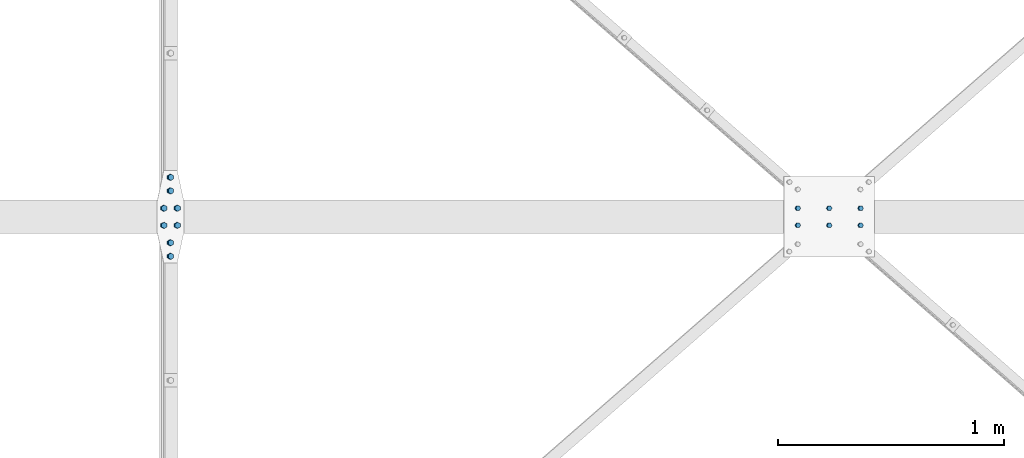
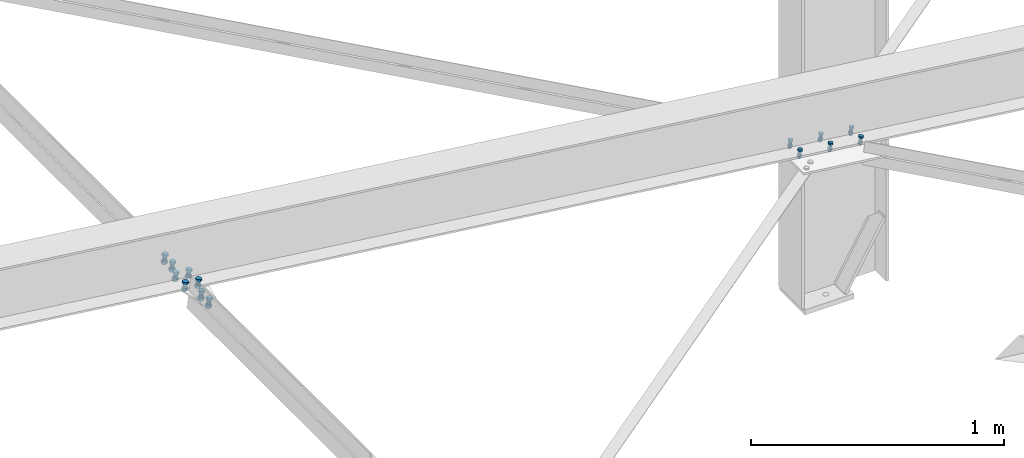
# One storey, part 301 of 3134: 4 mechanical fasteners, 4 elements without a shape of their own.
"""IFC2X3 building model written with IfcOpenShell, lengths in millimetres."""

from ifc_helpers import new_model, si_unit, frame, origin_with_axes, place, context, subcontext, project, spatial, faceted_brep, source, transform, mapped, material, type_object, element, aggregate, save


model = new_model("IFC2X3")

# Units and contexts
model_context = context("Model", 3, precision=1e-05, world=origin_with_axes())
body_context = subcontext(model_context, "Body", "Model", "MODEL_VIEW")
ifc_project = project(units=[si_unit("LENGTHUNIT", "METRE", prefix="MILLI"), si_unit("AREAUNIT", "SQUARE_METRE"), si_unit("VOLUMEUNIT", "CUBIC_METRE"), si_unit("MASSUNIT", "GRAM", prefix="KILO"), si_unit("TIMEUNIT", "SECOND"), si_unit("PLANEANGLEUNIT", "RADIAN"), si_unit("SOLIDANGLEUNIT", "STERADIAN"), si_unit("THERMODYNAMICTEMPERATUREUNIT", "DEGREE_CELSIUS"), si_unit("LUMINOUSINTENSITYUNIT", "LUMEN")], contexts=[model_context])

# Site, building, storey
site_placement = place(None, origin_with_axes())
site = spatial("IfcSite", under=ifc_project, at=site_placement, CompositionType="ELEMENT")
building_placement = place(site_placement, origin_with_axes())
building = spatial("IfcBuilding", under=site, at=building_placement, Name="Undefined", CompositionType="ELEMENT")
storey_placement = place(building_placement, origin_with_axes())
storey = spatial("IfcBuildingStorey", under=building, at=storey_placement, Name="Undefined", CompositionType="ELEMENT", Elevation=0.0)

# Assembly, mechanical fastener
assembly_1_placement = place(storey_placement, origin_with_axes())
assembly_1 = element("IfcElementAssembly", 1, at=assembly_1_placement, inside=storey, AssemblyPlace="NOTDEFINED", PredefinedType="RIGID_FRAME")
ifc_material = material(Name="8.8")
mechanical_fastener_type = type_object("IfcMechanicalFastenerType", Name="Bolt assembly")
shared_shape_1 = source(origin_with_axes(), body_context, "Body", "Brep", [
    faceted_brep([(13.856406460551, -16.9990000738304, 0.0), (6.92820323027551, -16.9990000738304, 12.0), (-6.92820323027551, -16.9990000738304, 12.0), (-13.856406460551, -16.9990000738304, 1.69692038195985e-15), (-6.92820323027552, -16.9990000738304, -12.0), (6.9282032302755, -16.9990000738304, -12.0), (6.9282032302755, -6.99900007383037, -12.0), (-6.92820323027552, -6.99900007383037, -12.0), (-13.856406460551, -6.99900007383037, 1.69692038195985e-15), (-6.92820323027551, -6.99900007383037, 12.0), (6.92820323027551, -6.99900007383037, 12.0), (13.856406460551, -6.99900007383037, 0.0), (8.0, -6.99900007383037, 0.0), (6.92820323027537, -6.99900007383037, 4.00000000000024), (3.99999999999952, -6.99900007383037, 6.92820323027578), (-8.29068785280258e-13, -6.99900007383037, 8.0), (-4.00000000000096, -6.99900007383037, 6.92820323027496), (-6.9282032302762, -6.99900007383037, 3.99999999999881), (-8.0, -6.99900007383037, -1.65813757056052e-12), (-6.92820323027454, -6.99900007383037, -4.00000000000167), (-3.99999999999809, -6.99900007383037, -6.92820323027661), (2.47832457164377e-12, -6.99900007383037, -8.0), (4.00000000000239, -6.99900007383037, -6.92820323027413), (6.92820323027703, -6.99900007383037, -3.99999999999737), (6.92820323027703, 33.0009999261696, -3.99999999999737), (4.00000000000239, 33.0009999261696, -6.92820323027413), (2.47832457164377e-12, 33.0009999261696, -8.0), (-3.99999999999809, 33.0009999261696, -6.92820323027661), (-6.92820323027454, 33.0009999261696, -4.00000000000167), (-8.0, 33.0009999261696, -1.65813757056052e-12), (-6.9282032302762, 33.0009999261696, 3.99999999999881), (-4.00000000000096, 33.0009999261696, 6.92820323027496), (-8.29068785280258e-13, 33.0009999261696, 8.0), (3.99999999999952, 33.0009999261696, 6.92820323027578), (6.92820323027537, 33.0009999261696, 4.00000000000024), (8.0, 33.0009999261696, 0.0), (13.856406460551, 14.9990000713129, 0.0), (6.92820323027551, 14.9990000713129, 12.0), (-6.92820323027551, 14.9990000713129, 12.0), (-13.856406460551, 14.9990000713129, 1.69692038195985e-15), (-6.92820323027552, 14.9990000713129, -12.0), (6.9282032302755, 14.9990000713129, -12.0), (6.9282032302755, 27.9990000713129, -12.0), (-6.92820323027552, 27.9990000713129, -12.0), (-13.856406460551, 27.9990000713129, 1.69692038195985e-15), (-6.92820323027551, 27.9990000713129, 12.0), (6.92820323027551, 27.9990000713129, 12.0), (13.856406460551, 27.9990000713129, 0.0)], [[[0, 1, 2, 3, 4, 5]], [[6, 7, 8, 9, 10, 11]], [[0, 11, 10, 1]], [[1, 10, 9, 2]], [[2, 9, 8, 3]], [[3, 8, 7, 4]], [[4, 7, 6, 5]], [[5, 6, 11, 0]], [[12, 13, 14, 15, 16, 17, 18, 19, 20, 21, 22, 23]], [[24, 25, 26, 27, 28, 29, 30, 31, 32, 33, 34, 35]], [[12, 35, 34, 13]], [[13, 34, 33, 14]], [[14, 33, 32, 15]], [[15, 32, 31, 16]], [[16, 31, 30, 17]], [[17, 30, 29, 18]], [[18, 29, 28, 19]], [[19, 28, 27, 20]], [[20, 27, 26, 21]], [[21, 26, 25, 22]], [[22, 25, 24, 23]], [[23, 24, 35, 12]], [[36, 37, 38, 39, 40, 41]], [[42, 43, 44, 45, 46, 47]], [[36, 47, 46, 37]], [[37, 46, 45, 38]], [[38, 45, 44, 39]], [[39, 44, 43, 40]], [[40, 43, 42, 41]], [[41, 42, 47, 36]]]),
    faceted_brep([(9.0, -3.46568413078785e-07, 0.0), (7.79422863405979, -3.46568413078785e-07, 4.50000000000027), (4.49999999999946, -3.46568413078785e-07, 7.79422863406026), (-9.3270238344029e-13, -3.46568413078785e-07, 9.0), (-4.50000000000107, -3.46568413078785e-07, 7.79422863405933), (-7.79422863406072, -3.46568413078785e-07, 4.49999999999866), (-9.0, -3.46568413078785e-07, -1.86540476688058e-12), (-7.79422863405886, -3.46568413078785e-07, -4.50000000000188), (-4.49999999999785, -3.46568413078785e-07, -7.79422863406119), (2.78811514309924e-12, -3.46568413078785e-07, -9.0), (4.50000000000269, -3.46568413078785e-07, -7.7942286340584), (7.79422863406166, -3.46568413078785e-07, -4.49999999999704), (7.79422863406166, 8.00000000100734, -4.49999999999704), (4.50000000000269, 8.00000000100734, -7.7942286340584), (2.78811514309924e-12, 8.00000000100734, -9.0), (-4.49999999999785, 8.00000000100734, -7.79422863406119), (-7.79422863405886, 8.00000000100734, -4.50000000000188), (-9.0, 8.00000000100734, -1.86540476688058e-12), (-7.79422863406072, 8.00000000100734, 4.49999999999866), (-4.50000000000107, 8.00000000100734, 7.79422863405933), (-9.3270238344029e-13, 8.00000000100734, 9.0), (4.49999999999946, 8.00000000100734, 7.79422863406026), (7.79422863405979, 8.00000000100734, 4.50000000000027), (9.0, 8.00000000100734, 0.0), (9.0, -6.89900007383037, 0.0), (7.79422863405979, -6.89900007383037, 4.50000000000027), (4.49999999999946, -6.89900007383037, 7.79422863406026), (-9.3270238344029e-13, -6.89900007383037, 9.0), (-4.50000000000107, -6.89900007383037, 7.79422863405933), (-7.79422863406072, -6.89900007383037, 4.49999999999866), (-9.0, -6.89900007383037, -1.86540476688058e-12), (-7.79422863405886, -6.89900007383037, -4.50000000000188), (-4.49999999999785, -6.89900007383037, -7.79422863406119), (2.78811514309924e-12, -6.89900007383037, -9.0), (4.50000000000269, -6.89900007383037, -7.7942286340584), (7.79422863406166, -6.89900007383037, -4.49999999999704), (7.79422863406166, 0.100999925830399, -4.49999999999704), (4.50000000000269, 0.100999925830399, -7.7942286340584), (2.78811514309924e-12, 0.100999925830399, -9.0), (-4.49999999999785, 0.100999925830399, -7.79422863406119), (-7.79422863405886, 0.100999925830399, -4.50000000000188), (-9.0, 0.100999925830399, -1.86540476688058e-12), (-7.79422863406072, 0.100999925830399, 4.49999999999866), (-4.50000000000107, 0.100999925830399, 7.79422863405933), (-9.3270238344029e-13, 0.100999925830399, 9.0), (4.49999999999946, 0.100999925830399, 7.79422863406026), (7.79422863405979, 0.100999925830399, 4.50000000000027), (9.0, 0.100999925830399, 0.0), (9.0, 7.89900007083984, 0.0), (7.79422863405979, 7.89900007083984, 4.50000000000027), (4.49999999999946, 7.89900007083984, 7.79422863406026), (-9.3270238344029e-13, 7.89900007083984, 9.0), (-4.50000000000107, 7.89900007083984, 7.79422863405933), (-7.79422863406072, 7.89900007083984, 4.49999999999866), (-9.0, 7.89900007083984, -1.86540476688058e-12), (-7.79422863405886, 7.89900007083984, -4.50000000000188), (-4.49999999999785, 7.89900007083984, -7.79422863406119), (2.78811514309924e-12, 7.89900007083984, -9.0), (4.50000000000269, 7.89900007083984, -7.7942286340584), (7.79422863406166, 7.89900007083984, -4.49999999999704), (7.79422863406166, 14.9990000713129, -4.49999999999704), (4.50000000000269, 14.9990000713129, -7.7942286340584), (2.78811514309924e-12, 14.9990000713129, -9.0), (-4.49999999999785, 14.9990000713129, -7.79422863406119), (-7.79422863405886, 14.9990000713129, -4.50000000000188), (-9.0, 14.9990000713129, -1.86540476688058e-12), (-7.79422863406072, 14.9990000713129, 4.49999999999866), (-4.50000000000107, 14.9990000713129, 7.79422863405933), (-9.3270238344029e-13, 14.9990000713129, 9.0), (4.49999999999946, 14.9990000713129, 7.79422863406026), (7.79422863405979, 14.9990000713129, 4.50000000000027), (9.0, 14.9990000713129, 0.0)], [[[0, 1, 2, 3, 4, 5, 6, 7, 8, 9, 10, 11]], [[12, 13, 14, 15, 16, 17, 18, 19, 20, 21, 22, 23]], [[0, 23, 22, 1]], [[1, 22, 21, 2]], [[2, 21, 20, 3]], [[3, 20, 19, 4]], [[4, 19, 18, 5]], [[5, 18, 17, 6]], [[6, 17, 16, 7]], [[7, 16, 15, 8]], [[8, 15, 14, 9]], [[9, 14, 13, 10]], [[10, 13, 12, 11]], [[11, 12, 23, 0]], [[24, 25, 26, 27, 28, 29, 30, 31, 32, 33, 34, 35]], [[36, 37, 38, 39, 40, 41, 42, 43, 44, 45, 46, 47]], [[24, 47, 46, 25]], [[25, 46, 45, 26]], [[26, 45, 44, 27]], [[27, 44, 43, 28]], [[28, 43, 42, 29]], [[29, 42, 41, 30]], [[30, 41, 40, 31]], [[31, 40, 39, 32]], [[32, 39, 38, 33]], [[33, 38, 37, 34]], [[34, 37, 36, 35]], [[35, 36, 47, 24]], [[48, 49, 50, 51, 52, 53, 54, 55, 56, 57, 58, 59]], [[60, 61, 62, 63, 64, 65, 66, 67, 68, 69, 70, 71]], [[48, 71, 70, 49]], [[49, 70, 69, 50]], [[50, 69, 68, 51]], [[51, 68, 67, 52]], [[52, 67, 66, 53]], [[53, 66, 65, 54]], [[54, 65, 64, 55]], [[55, 64, 63, 56]], [[56, 63, 62, 57]], [[57, 62, 61, 58]], [[58, 61, 60, 59]], [[59, 60, 71, 48]]]),
])
mechanical_fastener_1_placement = place(assembly_1_placement, frame((61712.9849612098, 2665.0, 4806.73358921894), z_axis=(-0.992623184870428, 0.0, 0.121240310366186), x_axis=(0.0, 1.0, 0.0)))
mechanical_fastener_1 = element("IfcMechanicalFastener", 2, at=mechanical_fastener_1_placement, type_object=mechanical_fastener_type, material=ifc_material, Name="Bolt assembly", NominalDiameter=16.0, NominalLength=40.0, context=body_context, shape_type="MappedRepresentation", body=[
    mapped(shared_shape_1, transform((0.0, 0.0, 0.0))),
    mapped(shared_shape_1, transform((59.9999999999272, 0.0, 5.40239852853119e-10))),
])
aggregate(assembly_1, [mechanical_fastener_1])

assembly_2_placement = place(storey_placement, origin_with_axes())
assembly_2 = element("IfcElementAssembly", 3, at=assembly_2_placement, inside=storey, AssemblyPlace="NOTDEFINED", PredefinedType="RIGID_FRAME")
mechanical_fastener_2_placement = place(assembly_2_placement, frame((61712.9849612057, 2435.00000000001, 4806.73358921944), z_axis=(0.992623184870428, 0.0, -0.121240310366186), x_axis=(0.0, -1.0, 0.0)))
mechanical_fastener_2 = element("IfcMechanicalFastener", 4, at=mechanical_fastener_2_placement, type_object=mechanical_fastener_type, material=ifc_material, Name="Bolt assembly", NominalDiameter=16.0, NominalLength=40.0, context=body_context, shape_type="MappedRepresentation", body=[
    mapped(shared_shape_1, transform((0.0, 0.0, 0.0))),
    mapped(shared_shape_1, transform((59.9999999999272, 0.0, 5.40239852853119e-10))),
])
aggregate(assembly_2, [mechanical_fastener_2])

assembly_3_placement = place(storey_placement, origin_with_axes())
assembly_3 = element("IfcElementAssembly", 5, at=assembly_3_placement, inside=storey, Name="PL8", AssemblyPlace="NOTDEFINED", PredefinedType="RIGID_FRAME")
shared_shape_2 = source(origin_with_axes(), body_context, "Body", "Brep", [
    faceted_brep([(13.856406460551, -19.2001597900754, 0.0), (6.92820323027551, -19.2001597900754, 12.0), (-6.92820323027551, -19.2001597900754, 12.0), (-13.856406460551, -19.2001597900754, 1.69692038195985e-15), (-6.92820323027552, -19.2001597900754, -12.0), (6.9282032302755, -19.2001597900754, -12.0), (6.9282032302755, -9.20015979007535, -12.0), (-6.92820323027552, -9.20015979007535, -12.0), (-13.856406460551, -9.20015979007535, 1.69692038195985e-15), (-6.92820323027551, -9.20015979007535, 12.0), (6.92820323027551, -9.20015979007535, 12.0), (13.856406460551, -9.20015979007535, 0.0), (8.0, -9.20015979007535, 0.0), (6.92820323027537, -9.20015979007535, 4.00000000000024), (3.99999999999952, -9.20015979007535, 6.92820323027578), (-8.29068785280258e-13, -9.20015979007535, 8.0), (-4.00000000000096, -9.20015979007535, 6.92820323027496), (-6.9282032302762, -9.20015979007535, 3.99999999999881), (-8.0, -9.20015979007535, -1.65813757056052e-12), (-6.92820323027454, -9.20015979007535, -4.00000000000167), (-3.99999999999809, -9.20015979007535, -6.92820323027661), (2.47832457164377e-12, -9.20015979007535, -8.0), (4.00000000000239, -9.20015979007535, -6.92820323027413), (6.92820323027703, -9.20015979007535, -3.99999999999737), (6.92820323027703, 25.7998402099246, -3.99999999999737), (4.00000000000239, 25.7998402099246, -6.92820323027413), (2.47832457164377e-12, 25.7998402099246, -8.0), (-3.99999999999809, 25.7998402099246, -6.92820323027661), (-6.92820323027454, 25.7998402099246, -4.00000000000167), (-8.0, 25.7998402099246, -1.65813757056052e-12), (-6.9282032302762, 25.7998402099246, 3.99999999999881), (-4.00000000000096, 25.7998402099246, 6.92820323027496), (-8.29068785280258e-13, 25.7998402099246, 8.0), (3.99999999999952, 25.7998402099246, 6.92820323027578), (6.92820323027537, 25.7998402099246, 4.00000000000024), (8.0, 25.7998402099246, 0.0), (13.856406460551, 7.9998399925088, 0.0), (6.92820323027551, 7.9998399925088, 12.0), (-6.92820323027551, 7.9998399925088, 12.0), (-13.856406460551, 7.9998399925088, 1.69692038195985e-15), (-6.92820323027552, 7.9998399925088, -12.0), (6.9282032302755, 7.9998399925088, -12.0), (6.9282032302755, 20.9998399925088, -12.0), (-6.92820323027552, 20.9998399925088, -12.0), (-13.856406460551, 20.9998399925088, 1.69692038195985e-15), (-6.92820323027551, 20.9998399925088, 12.0), (6.92820323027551, 20.9998399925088, 12.0), (13.856406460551, 20.9998399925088, 0.0)], [[[0, 1, 2, 3, 4, 5]], [[6, 7, 8, 9, 10, 11]], [[0, 11, 10, 1]], [[1, 10, 9, 2]], [[2, 9, 8, 3]], [[3, 8, 7, 4]], [[4, 7, 6, 5]], [[5, 6, 11, 0]], [[12, 13, 14, 15, 16, 17, 18, 19, 20, 21, 22, 23]], [[24, 25, 26, 27, 28, 29, 30, 31, 32, 33, 34, 35]], [[12, 35, 34, 13]], [[13, 34, 33, 14]], [[14, 33, 32, 15]], [[15, 32, 31, 16]], [[16, 31, 30, 17]], [[17, 30, 29, 18]], [[18, 29, 28, 19]], [[19, 28, 27, 20]], [[20, 27, 26, 21]], [[21, 26, 25, 22]], [[22, 25, 24, 23]], [[23, 24, 35, 12]], [[36, 37, 38, 39, 40, 41]], [[42, 43, 44, 45, 46, 47]], [[36, 47, 46, 37]], [[37, 46, 45, 38]], [[38, 45, 44, 39]], [[39, 44, 43, 40]], [[40, 43, 42, 41]], [[41, 42, 47, 36]]]),
    faceted_brep([(9.0, -9.10015979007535, 0.0), (7.79422863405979, -9.10015979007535, 4.50000000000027), (4.49999999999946, -9.10015979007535, 7.79422863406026), (-9.3270238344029e-13, -9.10015979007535, 9.0), (-4.50000000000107, -9.10015979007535, 7.79422863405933), (-7.79422863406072, -9.10015979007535, 4.49999999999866), (-9.0, -9.10015979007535, -1.86540476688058e-12), (-7.79422863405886, -9.10015979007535, -4.50000000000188), (-4.49999999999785, -9.10015979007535, -7.79422863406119), (2.78811514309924e-12, -9.10015979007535, -9.0), (4.50000000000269, -9.10015979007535, -7.7942286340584), (7.79422863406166, -9.10015979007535, -4.49999999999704), (7.79422863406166, 0.0998400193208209, -4.49999999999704), (4.50000000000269, 0.0998400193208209, -7.7942286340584), (2.78811514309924e-12, 0.0998400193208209, -9.0), (-4.49999999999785, 0.0998400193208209, -7.79422863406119), (-7.79422863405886, 0.0998400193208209, -4.50000000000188), (-9.0, 0.0998400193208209, -1.86540476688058e-12), (-7.79422863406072, 0.0998400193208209, 4.49999999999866), (-4.50000000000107, 0.0998400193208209, 7.79422863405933), (-9.3270238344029e-13, 0.0998400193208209, 9.0), (4.49999999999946, 0.0998400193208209, 7.79422863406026), (7.79422863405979, 0.0998400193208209, 4.50000000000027), (9.0, 0.0998400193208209, 0.0), (9.0, -0.100160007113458, 0.0), (7.79422863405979, -0.100160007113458, 4.50000000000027), (4.49999999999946, -0.100160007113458, 7.79422863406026), (-9.3270238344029e-13, -0.100160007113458, 9.0), (-4.50000000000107, -0.100160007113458, 7.79422863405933), (-7.79422863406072, -0.100160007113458, 4.49999999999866), (-9.0, -0.100160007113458, -1.86540476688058e-12), (-7.79422863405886, -0.100160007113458, -4.50000000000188), (-4.49999999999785, -0.100160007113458, -7.79422863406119), (2.78811514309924e-12, -0.100160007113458, -9.0), (4.50000000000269, -0.100160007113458, -7.7942286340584), (7.79422863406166, -0.100160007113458, -4.49999999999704), (7.79422863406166, 7.9998399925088, -4.49999999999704), (4.50000000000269, 7.9998399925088, -7.7942286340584), (2.78811514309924e-12, 7.9998399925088, -9.0), (-4.49999999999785, 7.9998399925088, -7.79422863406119), (-7.79422863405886, 7.9998399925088, -4.50000000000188), (-9.0, 7.9998399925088, -1.86540476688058e-12), (-7.79422863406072, 7.9998399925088, 4.49999999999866), (-4.50000000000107, 7.9998399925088, 7.79422863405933), (-9.3270238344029e-13, 7.9998399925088, 9.0), (4.49999999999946, 7.9998399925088, 7.79422863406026), (7.79422863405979, 7.9998399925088, 4.50000000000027), (9.0, 7.9998399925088, 0.0)], [[[0, 1, 2, 3, 4, 5, 6, 7, 8, 9, 10, 11]], [[12, 13, 14, 15, 16, 17, 18, 19, 20, 21, 22, 23]], [[0, 23, 22, 1]], [[1, 22, 21, 2]], [[2, 21, 20, 3]], [[3, 20, 19, 4]], [[4, 19, 18, 5]], [[5, 18, 17, 6]], [[6, 17, 16, 7]], [[7, 16, 15, 8]], [[8, 15, 14, 9]], [[9, 14, 13, 10]], [[10, 13, 12, 11]], [[11, 12, 23, 0]], [[24, 25, 26, 27, 28, 29, 30, 31, 32, 33, 34, 35]], [[36, 37, 38, 39, 40, 41, 42, 43, 44, 45, 46, 47]], [[24, 47, 46, 25]], [[25, 46, 45, 26]], [[26, 45, 44, 27]], [[27, 44, 43, 28]], [[28, 43, 42, 29]], [[29, 42, 41, 30]], [[30, 41, 40, 31]], [[31, 40, 39, 32]], [[32, 39, 38, 33]], [[33, 38, 37, 34]], [[34, 37, 36, 35]], [[35, 36, 47, 24]]]),
])
mechanical_fastener_3_placement = place(assembly_3_placement, frame((61712.984961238, 2512.0, 4806.73358921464), z_axis=(-0.992622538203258, 0.0, 0.121245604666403), x_axis=(0.0, 1.0, 0.0)))
mechanical_fastener_3 = element("IfcMechanicalFastener", 6, at=mechanical_fastener_3_placement, type_object=mechanical_fastener_type, material=ifc_material, Name="Bolt assembly", NominalDiameter=16.0, NominalLength=35.0, context=body_context, shape_type="MappedRepresentation", body=[
    mapped(shared_shape_2, transform((0.0, 4.54747350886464e-13, -30.0000000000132))),
    mapped(shared_shape_2, transform((76.0, -2.00088834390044e-10, -29.9999999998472))),
    mapped(shared_shape_2, transform((0.0, 4.54747350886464e-13, 30.0000000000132))),
    mapped(shared_shape_2, transform((76.0, 1.98269844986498e-10, 29.9999999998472))),
])
aggregate(assembly_3, [mechanical_fastener_3])

assembly_4_placement = place(storey_placement, origin_with_axes())
assembly_4 = element("IfcElementAssembly", 7, at=assembly_4_placement, inside=storey, Name="300", AssemblyPlace="NOTDEFINED", PredefinedType="RIGID_FRAME")
shared_shape_3 = source(origin_with_axes(), body_context, "Body", "Brep", [
    faceted_brep([(10.9696551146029, -17.1999998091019, 0.0), (5.48482755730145, -17.1999998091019, 9.5), (-5.48482755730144, -17.1999998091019, 9.5), (-10.9696551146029, -17.1999998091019, 1.34339530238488e-15), (-5.48482755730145, -17.1999998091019, -9.5), (5.48482755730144, -17.1999998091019, -9.50000000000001), (5.48482755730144, -9.19999978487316, -9.50000000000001), (-5.48482755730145, -9.19999978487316, -9.5), (-10.9696551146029, -9.19999978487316, 1.34339530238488e-15), (-5.48482755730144, -9.19999978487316, 9.5), (5.48482755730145, -9.19999978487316, 9.5), (10.9696551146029, -9.19999978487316, 0.0), (6.0, -9.19999978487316, 0.0), (5.19615242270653, -9.19999978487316, 3.00000000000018), (2.99999999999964, -9.19999978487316, 5.19615242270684), (-6.21801588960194e-13, -9.19999978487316, 6.0), (-3.00000000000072, -9.19999978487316, 5.19615242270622), (-5.19615242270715, -9.19999978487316, 2.9999999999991), (-6.0, -9.19999978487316, -1.24360317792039e-12), (-5.19615242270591, -9.19999978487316, -3.00000000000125), (-2.99999999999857, -9.19999978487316, -5.19615242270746), (1.85874342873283e-12, -9.19999978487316, -6.0), (3.00000000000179, -9.19999978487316, -5.1961524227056), (5.19615242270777, -9.19999978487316, -2.99999999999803), (5.19615242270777, 25.8000002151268, -2.99999999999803), (3.00000000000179, 25.8000002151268, -5.1961524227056), (1.85874342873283e-12, 25.8000002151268, -6.0), (-2.99999999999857, 25.8000002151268, -5.19615242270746), (-5.19615242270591, 25.8000002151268, -3.00000000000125), (-6.0, 25.8000002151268, -1.24360317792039e-12), (-5.19615242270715, 25.8000002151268, 2.9999999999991), (-3.00000000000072, 25.8000002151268, 5.19615242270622), (-6.21801588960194e-13, 25.8000002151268, 6.0), (2.99999999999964, 25.8000002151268, 5.19615242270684), (5.19615242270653, 25.8000002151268, 3.00000000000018), (6.0, 25.8000002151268, 0.0), (10.9696551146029, 8.0, 0.0), (5.48482755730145, 8.0, 9.5), (-5.48482755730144, 8.0, 9.5), (-10.9696551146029, 8.0, 1.34339530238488e-15), (-5.48482755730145, 8.0, -9.5), (5.48482755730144, 8.0, -9.50000000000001), (5.48482755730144, 18.0, -9.50000000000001), (-5.48482755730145, 18.0, -9.5), (-10.9696551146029, 18.0, 1.34339530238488e-15), (-5.48482755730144, 18.0, 9.5), (5.48482755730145, 18.0, 9.5), (10.9696551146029, 18.0, 0.0)], [[[0, 1, 2, 3, 4, 5]], [[6, 7, 8, 9, 10, 11]], [[0, 11, 10, 1]], [[1, 10, 9, 2]], [[2, 9, 8, 3]], [[3, 8, 7, 4]], [[4, 7, 6, 5]], [[5, 6, 11, 0]], [[12, 13, 14, 15, 16, 17, 18, 19, 20, 21, 22, 23]], [[24, 25, 26, 27, 28, 29, 30, 31, 32, 33, 34, 35]], [[12, 35, 34, 13]], [[13, 34, 33, 14]], [[14, 33, 32, 15]], [[15, 32, 31, 16]], [[16, 31, 30, 17]], [[17, 30, 29, 18]], [[18, 29, 28, 19]], [[19, 28, 27, 20]], [[20, 27, 26, 21]], [[21, 26, 25, 22]], [[22, 25, 24, 23]], [[23, 24, 35, 12]], [[36, 37, 38, 39, 40, 41]], [[42, 43, 44, 45, 46, 47]], [[36, 47, 46, 37]], [[37, 46, 45, 38]], [[38, 45, 44, 39]], [[39, 44, 43, 40]], [[40, 43, 42, 41]], [[41, 42, 47, 36]]]),
    faceted_brep([(7.0, -0.1, 0.0), (6.06217782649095, -0.1, 3.50000000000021), (3.49999999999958, -0.1, 6.06217782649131), (-7.25435187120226e-13, -0.1, 7.0), (-3.50000000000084, -0.1, 6.06217782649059), (-6.06217782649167, -0.1, 3.49999999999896), (-7.0, -0.1, -1.45087037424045e-12), (-6.06217782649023, -0.1, -3.50000000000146), (-3.49999999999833, -0.1, -6.06217782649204), (2.1685340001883e-12, -0.1, -7.0), (3.50000000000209, -0.1, -6.06217782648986), (6.0621778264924, -0.1, -3.4999999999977), (6.0621778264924, 8.0000000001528, -3.4999999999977), (3.50000000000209, 8.0000000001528, -6.06217782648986), (2.1685340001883e-12, 8.0000000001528, -7.0), (-3.49999999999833, 8.0000000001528, -6.06217782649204), (-6.06217782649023, 8.0000000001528, -3.50000000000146), (-7.0, 8.0000000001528, -1.45087037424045e-12), (-6.06217782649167, 8.0000000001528, 3.49999999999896), (-3.50000000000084, 8.0000000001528, 6.06217782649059), (-7.25435187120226e-13, 8.0000000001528, 7.0), (3.49999999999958, 8.0000000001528, 6.06217782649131), (6.06217782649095, 8.0000000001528, 3.50000000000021), (7.0, 8.0000000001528, 0.0), (7.0, -9.09999980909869, 0.0), (6.06217782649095, -9.09999980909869, 3.50000000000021), (3.49999999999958, -9.09999980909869, 6.06217782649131), (-7.25435187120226e-13, -9.09999980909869, 7.0), (-3.50000000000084, -9.09999980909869, 6.06217782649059), (-6.06217782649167, -9.09999980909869, 3.49999999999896), (-7.0, -9.09999980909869, -1.45087037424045e-12), (-6.06217782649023, -9.09999980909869, -3.50000000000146), (-3.49999999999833, -9.09999980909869, -6.06217782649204), (2.1685340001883e-12, -9.09999980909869, -7.0), (3.50000000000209, -9.09999980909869, -6.06217782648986), (6.0621778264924, -9.09999980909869, -3.4999999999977), (6.0621778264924, 0.0999999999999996, -3.4999999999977), (3.50000000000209, 0.0999999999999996, -6.06217782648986), (2.1685340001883e-12, 0.0999999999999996, -7.0), (-3.49999999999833, 0.0999999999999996, -6.06217782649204), (-6.06217782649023, 0.0999999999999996, -3.50000000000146), (-7.0, 0.0999999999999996, -1.45087037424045e-12), (-6.06217782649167, 0.0999999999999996, 3.49999999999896), (-3.50000000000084, 0.0999999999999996, 6.06217782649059), (-7.25435187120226e-13, 0.0999999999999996, 7.0), (3.49999999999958, 0.0999999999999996, 6.06217782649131), (6.06217782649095, 0.0999999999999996, 3.50000000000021), (7.0, 0.0999999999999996, 0.0)], [[[0, 1, 2, 3, 4, 5, 6, 7, 8, 9, 10, 11]], [[12, 13, 14, 15, 16, 17, 18, 19, 20, 21, 22, 23]], [[0, 23, 22, 1]], [[1, 22, 21, 2]], [[2, 21, 20, 3]], [[3, 20, 19, 4]], [[4, 19, 18, 5]], [[5, 18, 17, 6]], [[6, 17, 16, 7]], [[7, 16, 15, 8]], [[8, 15, 14, 9]], [[9, 14, 13, 10]], [[10, 13, 12, 11]], [[11, 12, 23, 0]], [[24, 25, 26, 27, 28, 29, 30, 31, 32, 33, 34, 35]], [[36, 37, 38, 39, 40, 41, 42, 43, 44, 45, 46, 47]], [[24, 47, 46, 25]], [[25, 46, 45, 26]], [[26, 45, 44, 27]], [[27, 44, 43, 28]], [[28, 43, 42, 29]], [[29, 42, 41, 30]], [[30, 41, 40, 31]], [[31, 40, 39, 32]], [[32, 39, 38, 33]], [[33, 38, 37, 34]], [[34, 37, 36, 35]], [[35, 36, 47, 24]]]),
])
mechanical_fastener_4_placement = place(assembly_4_placement, frame((64770.7000422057, 2550.0, 4433.26021979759), z_axis=(0.0, -1.0, 0.0), x_axis=(-0.992623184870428, 0.0, 0.121240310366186)))
mechanical_fastener_4 = element("IfcMechanicalFastener", 8, at=mechanical_fastener_4_placement, type_object=mechanical_fastener_type, material=ifc_material, Name="Bolt assembly", NominalDiameter=12.0, NominalLength=35.0, context=body_context, shape_type="MappedRepresentation", body=[
    mapped(shared_shape_3, transform((0.0, 0.0, -38.0))),
    mapped(shared_shape_3, transform((140.000000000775, 5.85714587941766e-10, -38.0))),
    mapped(shared_shape_3, transform((279.999999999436, -4.74756234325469e-10, -38.0))),
    mapped(shared_shape_3, transform((0.0, 0.0, 38.0))),
    mapped(shared_shape_3, transform((140.000000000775, 5.85714587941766e-10, 38.0))),
    mapped(shared_shape_3, transform((279.999999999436, -4.74756234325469e-10, 38.0))),
])
aggregate(assembly_4, [mechanical_fastener_4])

save(model, "model.ifc")
